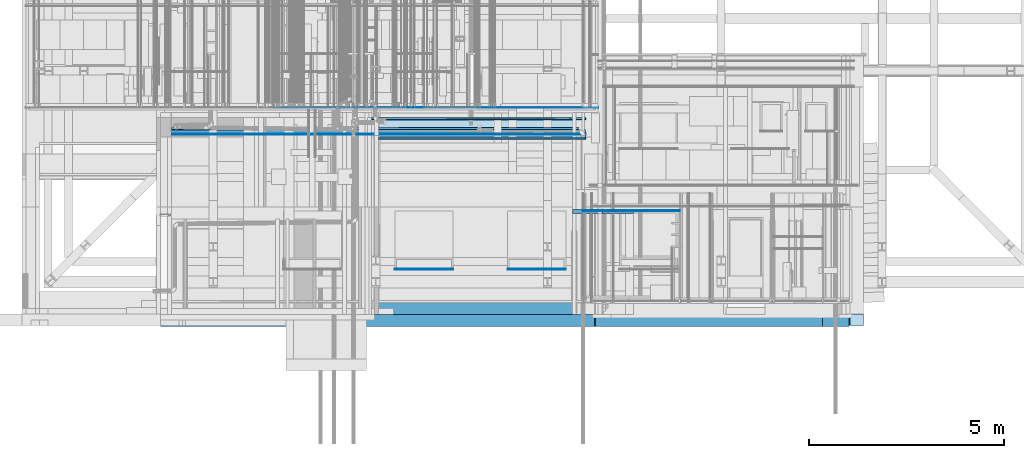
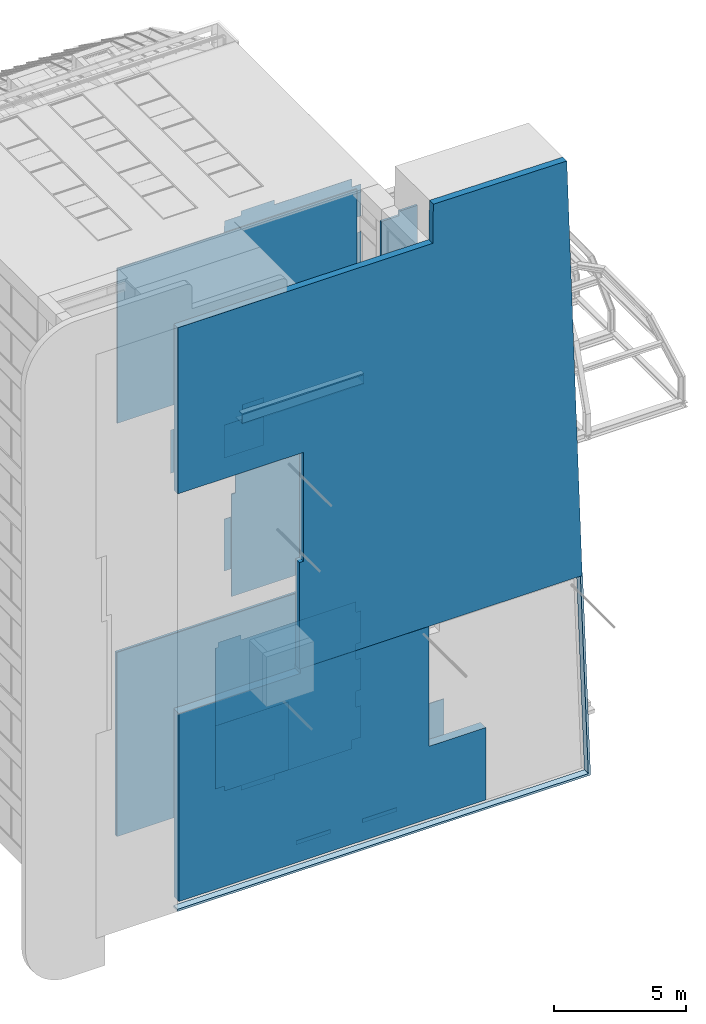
# One storey, part 245 of 583: 22 slabs.
"""IFC2X3 building model written with IfcOpenShell, lengths in metres."""

from ifc_helpers import new_model, entity, si_unit, converted_unit, derived_unit, money_unit, direction, frame, origin_with_axes, place, context, subcontext, project, spatial, faceted_brep, material, type_object, element, save


model = new_model("IFC2X3")

# Units and contexts
model_context = context("Model", 3, precision=1e-05, world=origin_with_axes(), true_north=direction((0.0, 1.0)))
body_context = subcontext(model_context, "Body", "Model", "MODEL_VIEW", scale=1.0)
ifc_project = project(units=[si_unit("LENGTHUNIT", "METRE"), si_unit("AREAUNIT", "SQUARE_METRE"), si_unit("VOLUMEUNIT", "CUBIC_METRE"), si_unit("ABSORBEDDOSEUNIT", "GRAY"), si_unit("AMOUNTOFSUBSTANCEUNIT", "MOLE"), si_unit("DOSEEQUIVALENTUNIT", "SIEVERT"), si_unit("ELECTRICCAPACITANCEUNIT", "FARAD"), si_unit("ELECTRICCHARGEUNIT", "COULOMB"), si_unit("ELECTRICCONDUCTANCEUNIT", "SIEMENS"), si_unit("ELECTRICCURRENTUNIT", "AMPERE"), si_unit("ELECTRICRESISTANCEUNIT", "OHM"), si_unit("ELECTRICVOLTAGEUNIT", "VOLT"), si_unit("ENERGYUNIT", "JOULE"), si_unit("FORCEUNIT", "NEWTON"), si_unit("FREQUENCYUNIT", "HERTZ"), si_unit("ILLUMINANCEUNIT", "LUX"), si_unit("INDUCTANCEUNIT", "HENRY"), si_unit("LUMINOUSFLUXUNIT", "LUMEN"), si_unit("LUMINOUSINTENSITYUNIT", "CANDELA"), si_unit("MAGNETICFLUXDENSITYUNIT", "TESLA"), si_unit("MAGNETICFLUXUNIT", "WEBER"), si_unit("MASSUNIT", "GRAM"), converted_unit("PLANEANGLEUNIT", "degree", entity("IfcReal", 0.0174532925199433), si_unit("PLANEANGLEUNIT", "RADIAN"), dimensions=[0, 0, 0, 0, 0, 0, 0]), si_unit("POWERUNIT", "WATT"), si_unit("PRESSUREUNIT", "PASCAL"), si_unit("RADIOACTIVITYUNIT", "BECQUEREL"), si_unit("SOLIDANGLEUNIT", "STERADIAN"), si_unit("THERMODYNAMICTEMPERATUREUNIT", "KELVIN"), si_unit("TIMEUNIT", "SECOND"), derived_unit("ACCELERATIONUNIT", [(si_unit("LENGTHUNIT", "METRE"), 1), (si_unit("TIMEUNIT", "SECOND"), -2)]), derived_unit("ANGULARVELOCITYUNIT", [(converted_unit("PLANEANGLEUNIT", "degree", entity("IfcReal", 0.0174532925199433), si_unit("PLANEANGLEUNIT", "RADIAN"), dimensions=[0, 0, 0, 0, 0, 0, 0]), 1), (si_unit("TIMEUNIT", "SECOND"), -1)]), derived_unit("CURVATUREUNIT", [(converted_unit("PLANEANGLEUNIT", "degree", entity("IfcReal", 0.0174532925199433), si_unit("PLANEANGLEUNIT", "RADIAN"), dimensions=[0, 0, 0, 0, 0, 0, 0]), 1), (si_unit("LENGTHUNIT", "METRE"), -1)]), derived_unit("DYNAMICVISCOSITYUNIT", [(si_unit("PRESSUREUNIT", "PASCAL"), 1), (si_unit("TIMEUNIT", "SECOND"), 1)]), derived_unit("HEATFLUXDENSITYUNIT", [(si_unit("POWERUNIT", "WATT"), 1), (si_unit("LENGTHUNIT", "METRE"), -2)]), derived_unit("HEATINGVALUEUNIT", [(si_unit("ENERGYUNIT", "JOULE"), 1), (si_unit("MASSUNIT", "GRAM"), -1)]), derived_unit("INTEGERCOUNTRATEUNIT", [(si_unit("TIMEUNIT", "SECOND"), -1)]), derived_unit("IONCONCENTRATIONUNIT", [(si_unit("MASSUNIT", "GRAM"), 1), (si_unit("VOLUMEUNIT", "CUBIC_METRE"), -1)]), derived_unit("ISOTHERMALMOISTURECAPACITYUNIT", [(si_unit("VOLUMEUNIT", "CUBIC_METRE"), 1), (si_unit("MASSUNIT", "GRAM"), -1)]), derived_unit("KINEMATICVISCOSITYUNIT", [(si_unit("AREAUNIT", "SQUARE_METRE"), 1), (si_unit("TIMEUNIT", "SECOND"), -1)]), derived_unit("LINEARFORCEUNIT", [(si_unit("FORCEUNIT", "NEWTON"), 1), (si_unit("LENGTHUNIT", "METRE"), -1)]), derived_unit("LINEARMOMENTUNIT", [(si_unit("FORCEUNIT", "NEWTON"), 1), (si_unit("LENGTHUNIT", "METRE"), -1)]), derived_unit("LINEARSTIFFNESSUNIT", [(si_unit("FORCEUNIT", "NEWTON"), 1), (si_unit("LENGTHUNIT", "METRE"), -1)]), derived_unit("LINEARVELOCITYUNIT", [(si_unit("LENGTHUNIT", "METRE"), 1), (si_unit("TIMEUNIT", "SECOND"), -1)]), derived_unit("LUMINOUSINTENSITYDISTRIBUTIONUNIT", [(si_unit("LUMINOUSINTENSITYUNIT", "CANDELA"), 1), (si_unit("LUMINOUSFLUXUNIT", "LUMEN"), -1)]), derived_unit("MASSDENSITYUNIT", [(si_unit("MASSUNIT", "GRAM"), 1), (si_unit("VOLUMEUNIT", "CUBIC_METRE"), -1)]), derived_unit("MASSFLOWRATEUNIT", [(si_unit("MASSUNIT", "GRAM"), 1), (si_unit("TIMEUNIT", "SECOND"), -1)]), derived_unit("MASSPERLENGTHUNIT", [(si_unit("MASSUNIT", "GRAM"), 1), (si_unit("LENGTHUNIT", "METRE"), -1)]), derived_unit("MODULUSOFELASTICITYUNIT", [(si_unit("FORCEUNIT", "NEWTON"), 1), (si_unit("AREAUNIT", "SQUARE_METRE"), -1)]), derived_unit("MODULUSOFLINEARSUBGRADEREACTIONUNIT", [(si_unit("FORCEUNIT", "NEWTON"), 1), (si_unit("LENGTHUNIT", "METRE"), -2)]), derived_unit("MODULUSOFROTATIONALSUBGRADEREACTIONUNIT", [(si_unit("FORCEUNIT", "NEWTON"), 1), (si_unit("LENGTHUNIT", "METRE"), 1)]), derived_unit("MODULUSOFSUBGRADEREACTIONUNIT", [(si_unit("FORCEUNIT", "NEWTON"), 1), (si_unit("VOLUMEUNIT", "CUBIC_METRE"), -1)]), derived_unit("MOISTUREDIFFUSIVITYUNIT", [(si_unit("VOLUMEUNIT", "CUBIC_METRE"), 1), (si_unit("TIMEUNIT", "SECOND"), -1)]), derived_unit("MOLECULARWEIGHTUNIT", [(si_unit("MASSUNIT", "GRAM"), 1), (si_unit("AMOUNTOFSUBSTANCEUNIT", "MOLE"), -1)]), derived_unit("PLANARFORCEUNIT", [(si_unit("FORCEUNIT", "NEWTON"), 1), (si_unit("LENGTHUNIT", "METRE"), -2)]), derived_unit("ROTATIONALFREQUENCYUNIT", [(si_unit("TIMEUNIT", "SECOND"), -1)]), derived_unit("ROTATIONALMASSUNIT", [(si_unit("MASSUNIT", "GRAM"), 1), (si_unit("LENGTHUNIT", "METRE"), 2)]), derived_unit("ROTATIONALSTIFFNESSUNIT", [(si_unit("FORCEUNIT", "NEWTON"), 1), (si_unit("LENGTHUNIT", "METRE"), 1), (converted_unit("PLANEANGLEUNIT", "degree", entity("IfcReal", 0.0174532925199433), si_unit("PLANEANGLEUNIT", "RADIAN"), dimensions=[0, 0, 0, 0, 0, 0, 0]), -1)]), derived_unit("SECTIONAREAINTEGRALUNIT", [(si_unit("LENGTHUNIT", "METRE"), 5)]), derived_unit("SECTIONMODULUSUNIT", [(si_unit("LENGTHUNIT", "METRE"), 3)]), derived_unit("SHEARMODULUSUNIT", [(si_unit("FORCEUNIT", "NEWTON"), 1), (si_unit("AREAUNIT", "SQUARE_METRE"), -1)]), derived_unit("SOUNDPOWERUNIT", [(si_unit("ENERGYUNIT", "JOULE"), 1), (si_unit("TIMEUNIT", "SECOND"), -1)]), derived_unit("SPECIFICHEATCAPACITYUNIT", [(si_unit("FORCEUNIT", "NEWTON"), 1), (si_unit("MASSUNIT", "GRAM"), -1), (si_unit("THERMODYNAMICTEMPERATUREUNIT", "KELVIN"), -1)]), derived_unit("TEMPERATUREGRADIENTUNIT", [(si_unit("THERMODYNAMICTEMPERATUREUNIT", "KELVIN"), 1), (si_unit("LENGTHUNIT", "METRE"), -1)]), derived_unit("THERMALADMITTANCEUNIT", [(si_unit("POWERUNIT", "WATT"), 1), (si_unit("AREAUNIT", "SQUARE_METRE"), -1), (si_unit("THERMODYNAMICTEMPERATUREUNIT", "KELVIN"), -1)]), derived_unit("THERMALCONDUCTANCEUNIT", [(si_unit("POWERUNIT", "WATT"), 1), (si_unit("LENGTHUNIT", "METRE"), -1), (si_unit("THERMODYNAMICTEMPERATUREUNIT", "KELVIN"), -1)]), derived_unit("THERMALEXPANSIONCOEFFICIENTUNIT", [(si_unit("THERMODYNAMICTEMPERATUREUNIT", "KELVIN"), -1)]), derived_unit("THERMALRESISTANCEUNIT", [(si_unit("AREAUNIT", "SQUARE_METRE"), 1), (si_unit("POWERUNIT", "WATT"), -1)]), derived_unit("THERMALTRANSMITTANCEUNIT", [(si_unit("POWERUNIT", "WATT"), 1), (si_unit("AREAUNIT", "SQUARE_METRE"), -1), (si_unit("THERMODYNAMICTEMPERATUREUNIT", "KELVIN"), -1)]), derived_unit("TORQUEUNIT", [(si_unit("FORCEUNIT", "NEWTON"), 1), (si_unit("LENGTHUNIT", "METRE"), 1)]), derived_unit("VAPORPERMEABILITYUNIT", [(si_unit("MASSUNIT", "GRAM"), 1), (si_unit("TIMEUNIT", "SECOND"), -1)]), derived_unit("VOLUMETRICFLOWRATEUNIT", [(si_unit("VOLUMEUNIT", "CUBIC_METRE"), 1), (si_unit("TIMEUNIT", "SECOND"), -1)]), derived_unit("WARPINGCONSTANTUNIT", [(si_unit("LENGTHUNIT", "METRE"), 6)]), derived_unit("WARPINGMOMENTUNIT", [(si_unit("FORCEUNIT", "NEWTON"), 1), (si_unit("LENGTHUNIT", "METRE"), 2)]), money_unit("GBP")], contexts=[model_context])

# Site, building, storey
site_placement = place(None, origin_with_axes())
site = spatial("IfcSite", under=ifc_project, at=site_placement, Name="Site", CompositionType="ELEMENT")
building_placement = place(site_placement, origin_with_axes())
building = spatial("IfcBuilding", under=site, at=building_placement, Name="Building01", CompositionType="ELEMENT")
storey_placement = place(building_placement, frame((0.0, 0.0, 20.78), z_axis=(0.0, 0.0, 1.0), x_axis=(1.0, 0.0, 0.0)))
storey = spatial("IfcBuildingStorey", under=building, at=storey_placement, Name="RL", CompositionType="ELEMENT", Elevation=20.78)

# Slabs
ifc_material_1 = material(Name="A_BSUK_Slabs")
slab_type_1 = type_object("IfcSlabType", Name="A-FloorsSlabs A_BSUK_Slabs", PredefinedType="FLOOR")
placement = place(storey_placement, frame((0.0, 0.0, -20.78), z_axis=(0.0, 0.0, 1.0), x_axis=(1.0, 0.0, 0.0)))
element("IfcSlab", 1, at=placement, inside=storey, type_object=slab_type_1, material=ifc_material_1, Name="A-FloorsSlabs A_BSUK_Slabs", ObjectType="CompoundSlabLeaf", context=body_context, shape_type="Brep", body=[
    faceted_brep([(14.897172, 2.44, 22.371797), (14.897172, 2.54, 22.371797), (15.695023, 2.54, 22.371797), (15.695023, 2.44, 22.371797), (14.897172, 2.44, 22.571797), (14.897172, 2.54, 22.571797), (14.134296, 2.44, 22.577154), (14.134296, 2.54, 22.577154), (14.134126, 2.44, 26.429722), (14.134126, 2.54, 26.429722), (14.906552, 2.44, 26.429767), (14.906552, 2.54, 26.429767), (14.909522, 2.44, 26.629767), (14.909522, 2.54, 26.629767), (15.705087, 2.44, 26.629738), (15.705087, 2.54, 26.629738)], [[[0, 1, 2, 3]], [[4, 5, 1, 0]], [[6, 7, 5, 4]], [[8, 9, 7, 6]], [[10, 11, 9, 8]], [[12, 13, 11, 10]], [[14, 15, 13, 12]], [[3, 2, 15, 14]], [[1, 5, 7, 9, 11, 13, 15, 2]], [[3, 14, 12, 10, 8, 6, 4, 0]]]),
])
element("IfcSlab", 2, at=placement, inside=storey, type_object=slab_type_1, material=ifc_material_1, Name="A-FloorsSlabs A_BSUK_Slabs", ObjectType="CompoundSlabLeaf", context=body_context, shape_type="Brep", body=[
    faceted_brep([(8.87141, -0.46, 9.343127), (8.87141, -0.16, 9.343127), (21.237229, -0.16, 9.343127), (21.237229, -0.46, 9.343127), (8.87141, -0.46, 14.27235), (8.87141, -0.16, 14.27235), (9.053145, -0.46, 14.27235), (9.053145, -0.16, 14.27235), (9.053145, -0.46, 19.302772), (9.053145, -0.16, 19.302772), (3.559165, -0.46, 19.302772), (3.559165, -0.16, 19.302772), (3.559165, -0.46, 26.98149), (3.559165, -0.16, 26.98149), (6.112111, -0.46, 26.98149), (6.112111, -0.16, 26.98149), (6.511753, -0.46, 26.98149), (6.511753, -0.16, 26.98149), (8.237758, -0.46, 26.98149), (8.237758, -0.16, 26.98149), (8.909531, -0.46, 26.98149), (8.909531, -0.16, 26.98149), (14.134296, -0.46, 26.98149), (14.134296, -0.16, 26.98149), (14.134296, -0.46, 26.981639), (14.134296, -0.16, 26.981639), (14.702806, -0.46, 26.981707), (14.702806, -0.16, 26.981707), (14.728819, -0.46, 28.782327), (14.728819, -0.16, 28.782327), (20.563839, -0.46, 28.739658), (20.563839, -0.16, 28.739658)], [[[0, 1, 2, 3]], [[4, 5, 1, 0]], [[6, 7, 5, 4]], [[8, 9, 7, 6]], [[10, 11, 9, 8]], [[12, 13, 11, 10]], [[14, 15, 13, 12]], [[16, 17, 15, 14]], [[18, 19, 17, 16]], [[20, 21, 19, 18]], [[22, 23, 21, 20]], [[24, 25, 23, 22]], [[26, 27, 25, 24]], [[28, 29, 27, 26]], [[30, 31, 29, 28]], [[3, 2, 31, 30]], [[1, 5, 7, 9, 11, 13, 15, 17, 19, 21, 23, 25, 27, 29, 31, 2]], [[3, 30, 28, 26, 24, 22, 20, 18, 16, 14, 12, 10, 8, 6, 4, 0]]]),
])
element("IfcSlab", 3, at=placement, inside=storey, type_object=slab_type_1, material=ifc_material_1, Name="A-FloorsSlabs A_BSUK_Slabs", ObjectType="CompoundSlabLeaf", context=body_context, shape_type="Brep", body=[
    faceted_brep([(21.237229, -0.445, 9.343265), (21.237229, -0.145, 9.343265), (21.166058, -0.145, 9.343265), (21.166058, -0.445, 9.343265), (21.237229, -0.445, 9.343127), (21.237229, -0.145, 9.343127), (21.262408, -0.445, 9.4435), (21.262408, -0.145, 9.4435), (21.61325, -0.445, -0.013684), (21.61325, -0.145, -0.013684), (18.020229, -0.445, -0.013684), (18.020229, -0.145, -0.013684), (18.020229, -0.445, 0.000677), (18.020229, -0.145, 0.000677), (3.559142, -0.445, -0.000238), (3.559142, -0.145, -0.000238), (3.559332, -0.445, 0.10035), (3.559332, -0.145, 0.10035), (21.509487, -0.445, 0.085897), (21.509487, -0.145, 0.085897)], [[[0, 1, 2, 3]], [[4, 5, 1, 0]], [[6, 7, 5, 4]], [[8, 9, 7, 6]], [[10, 11, 9, 8]], [[12, 13, 11, 10]], [[14, 15, 13, 12]], [[16, 17, 15, 14]], [[18, 19, 17, 16]], [[3, 2, 19, 18]], [[1, 5, 7, 9, 11, 13, 15, 17, 19, 2]], [[3, 18, 16, 14, 12, 10, 8, 6, 4, 0]]]),
])
element("IfcSlab", 4, at=placement, inside=storey, type_object=slab_type_1, material=ifc_material_1, Name="A-FloorsSlabs A_BSUK_Slabs", ObjectType="CompoundSlabLeaf", context=body_context, shape_type="Brep", body=[
    faceted_brep([(3.733332, -0.252, 0.280357), (3.733332, 0.148, 0.280357), (17.143647, 0.148, 0.280357), (17.143647, -0.252, 0.280357), (3.733332, -0.252, 8.965501), (3.733332, 0.148, 8.965501), (9.035141, -0.252, 8.965501), (9.035141, 0.148, 8.965501), (9.035141, -0.252, 9.173127), (9.035141, 0.148, 9.173127), (14.65, -0.252, 9.173127), (14.65, 0.148, 9.173127), (14.65, -0.252, 3.630525), (14.65, 0.148, 3.630525), (17.143647, -0.252, 3.630525), (17.143647, 0.148, 3.630525)], [[[0, 1, 2, 3]], [[4, 5, 1, 0]], [[6, 7, 5, 4]], [[8, 9, 7, 6]], [[10, 11, 9, 8]], [[12, 13, 11, 10]], [[14, 15, 13, 12]], [[3, 2, 15, 14]], [[1, 5, 7, 9, 11, 13, 15, 2]], [[3, 14, 12, 10, 8, 6, 4, 0]]]),
])
element("IfcSlab", 5, at=placement, inside=storey, type_object=slab_type_1, material=ifc_material_1, Name="A-FloorsSlabs A_BSUK_Slabs", ObjectType="CompoundSlabLeaf", context=body_context, shape_type="Brep", body=[
    faceted_brep([(14.477504, 4.46, 0.42), (14.477504, 4.475, 0.42), (14.48, 4.475, 8.925), (14.48, 4.46, 8.925), (3.734123, 4.46, 0.42), (3.734123, 4.475, 0.42), (3.733962, 4.46, 8.925), (3.733962, 4.475, 8.925), (9.049365, 4.46, 8.925127), (9.049365, 4.475, 8.925127), (9.049365, 4.46, 8.925), (9.049365, 4.475, 8.925)], [[[0, 1, 2, 3]], [[4, 5, 1, 0]], [[6, 7, 5, 4]], [[8, 9, 7, 6]], [[10, 11, 9, 8]], [[3, 2, 11, 10]], [[1, 5, 7, 9, 11, 2]], [[3, 10, 8, 6, 4, 0]]]),
])
element("IfcSlab", 6, at=placement, inside=storey, type_object=slab_type_1, material=ifc_material_1, Name="A-FloorsSlabs A_BSUK_Slabs", ObjectType="CompoundSlabLeaf", context=body_context, shape_type="Brep", body=[
    faceted_brep([(14.48, 4.475, 0.42), (14.48, 4.49, 0.42), (14.48, 4.49, 8.925), (14.48, 4.475, 8.925), (3.734123, 4.475, 0.42), (3.734123, 4.49, 0.42), (3.733962, 4.475, 8.925), (3.733962, 4.49, 8.925), (9.049365, 4.475, 8.925127), (9.049365, 4.49, 8.925127), (9.049365, 4.475, 8.925), (9.049365, 4.49, 8.925)], [[[0, 1, 2, 3]], [[4, 5, 1, 0]], [[6, 7, 5, 4]], [[8, 9, 7, 6]], [[10, 11, 9, 8]], [[3, 2, 11, 10]], [[1, 5, 7, 9, 11, 2]], [[3, 10, 8, 6, 4, 0]]]),
])
element("IfcSlab", 7, at=placement, inside=storey, type_object=slab_type_1, material=ifc_material_1, Name="A-FloorsSlabs A_BSUK_Slabs", ObjectType="CompoundSlabLeaf", context=body_context, shape_type="Brep", body=[
    faceted_brep([(16.893628, 2.495, 3.380525), (16.893628, 2.51, 3.380525), (14.4, 2.51, 3.380525), (14.4, 2.495, 3.380525), (16.893647, 2.495, 0.280851), (16.893647, 2.51, 0.280851), (14.4, 2.495, 0.280357), (14.4, 2.51, 0.280357)], [[[0, 1, 2, 3]], [[4, 5, 1, 0]], [[6, 7, 5, 4]], [[3, 2, 7, 6]], [[1, 5, 7, 2]], [[3, 6, 4, 0]]]),
])
element("IfcSlab", 8, at=placement, inside=storey, type_object=slab_type_1, material=ifc_material_1, Name="A-FloorsSlabs A_BSUK_Slabs", ObjectType="CompoundSlabLeaf", context=body_context, shape_type="Brep", body=[
    faceted_brep([(16.893628, 2.51, 3.380525), (16.893628, 2.525, 3.380525), (14.4, 2.525, 3.380525), (14.4, 2.51, 3.380525), (16.893647, 2.51, 0.280851), (16.893647, 2.525, 0.280851), (14.4, 2.51, 0.280757), (14.4, 2.525, 0.280757)], [[[0, 1, 2, 3]], [[4, 5, 1, 0]], [[6, 7, 5, 4]], [[3, 2, 7, 6]], [[1, 5, 7, 2]], [[3, 6, 4, 0]]]),
])
ifc_material_2 = material(Name="A_BSUK_Timber_Miscellaneous")
element("IfcSlab", 9, at=placement, inside=storey, type_object=slab_type_1, material=ifc_material_2, Name="A-FloorsSlabs A_BSUK_Slabs", ObjectType="CompoundSlabLeaf", context=body_context, shape_type="Brep", body=[
    faceted_brep([(13.971016, 0.998, 0.100088), (13.971016, 1.023, 0.100088), (13.971016, 1.023, 0.287079), (13.971016, 0.998, 0.287079), (12.471016, 0.998, 0.100088), (12.471016, 1.023, 0.100088), (12.471016, 0.998, 0.287079), (12.471016, 1.023, 0.287079)], [[[0, 1, 2, 3]], [[4, 5, 1, 0]], [[6, 7, 5, 4]], [[3, 2, 7, 6]], [[1, 5, 7, 2]], [[3, 6, 4, 0]]]),
])
element("IfcSlab", 10, at=placement, inside=storey, type_object=slab_type_1, material=ifc_material_2, Name="A-FloorsSlabs A_BSUK_Slabs", ObjectType="CompoundSlabLeaf", context=body_context, shape_type="Brep", body=[
    faceted_brep([(11.077491, 0.998, 0.100088), (11.077491, 1.023, 0.100088), (11.077491, 1.023, 0.287079), (11.077491, 0.998, 0.287079), (9.577491, 0.998, 0.100088), (9.577491, 1.023, 0.100088), (9.577491, 0.998, 0.287079), (9.577491, 1.023, 0.287079)], [[[0, 1, 2, 3]], [[4, 5, 1, 0]], [[6, 7, 5, 4]], [[3, 2, 7, 6]], [[1, 5, 7, 2]], [[3, 6, 4, 0]]]),
])
ifc_material_3 = material(Name="A_BSUK_ExpandedPolystyreneBoards")
element("IfcSlab", 11, at=placement, inside=storey, type_object=slab_type_1, material=ifc_material_3, Name="A-FloorsSlabs A_BSUK_Slabs", ObjectType="CompoundSlabLeaf", context=body_context, shape_type="Brep", body=[
    faceted_brep([(14.299834, 4.590745, 18.08494), (14.299834, 4.640745, 18.08494), (14.299999, 4.640745, 26.562239), (14.299999, 4.590745, 26.562239), (9.153143, 4.590745, 18.083237), (9.153143, 4.640745, 18.083237), (9.153044, 4.590745, 19.402975), (9.153044, 4.640745, 19.402975), (3.833852, 4.590745, 19.402776), (3.833852, 4.640745, 19.402776), (3.833852, 4.590745, 26.562239), (3.833852, 4.640745, 26.562239)], [[[0, 1, 2, 3]], [[4, 5, 1, 0]], [[6, 7, 5, 4]], [[8, 9, 7, 6]], [[10, 11, 9, 8]], [[3, 2, 11, 10]], [[1, 5, 7, 9, 11, 2]], [[3, 10, 8, 6, 4, 0]]]),
])
element("IfcSlab", 12, at=placement, inside=storey, type_object=slab_type_1, material=ifc_material_3, Name="A-FloorsSlabs A_BSUK_Slabs", ObjectType="CompoundSlabLeaf", context=body_context, shape_type="Brep", body=[
    faceted_brep([(14.48, 4.35, 17.685), (14.48, 4.4, 17.685), (14.48, 4.4, 18.085), (14.48, 4.35, 18.085), (9.153143, 4.35, 17.685), (9.153143, 4.4, 17.685), (9.153143, 4.35, 18.085), (9.153143, 4.4, 18.085)], [[[0, 1, 2, 3]], [[4, 5, 1, 0]], [[6, 7, 5, 4]], [[3, 2, 7, 6]], [[1, 5, 7, 2]], [[3, 6, 4, 0]]]),
])
element("IfcSlab", 13, at=placement, inside=storey, type_object=slab_type_1, material=ifc_material_3, Name="A-FloorsSlabs A_BSUK_Slabs", ObjectType="CompoundSlabLeaf", context=body_context, shape_type="Brep", body=[
    faceted_brep([(8.973018, 4.85, 9.443038), (8.973018, 4.9, 9.443038), (14.48, 4.9, 9.443038), (14.48, 4.85, 9.443038), (8.972665, 4.85, 14.17234), (8.972665, 4.9, 14.17234), (9.147854, 4.85, 14.172354), (9.147854, 4.9, 14.172354), (9.147591, 4.85, 17.684602), (9.147591, 4.9, 17.684602), (14.48, 4.85, 17.685), (14.48, 4.9, 17.685)], [[[0, 1, 2, 3]], [[4, 5, 1, 0]], [[6, 7, 5, 4]], [[8, 9, 7, 6]], [[10, 11, 9, 8]], [[3, 2, 11, 10]], [[1, 5, 7, 9, 11, 2]], [[3, 10, 8, 6, 4, 0]]]),
])
element("IfcSlab", 14, at=placement, inside=storey, type_object=slab_type_1, material=ifc_material_3, Name="A-FloorsSlabs A_BSUK_Slabs", ObjectType="CompoundSlabLeaf", context=body_context, shape_type="Brep", body=[
    faceted_brep([(14.48, 4.35, 18.13494), (14.48, 4.35, 18.08494), (14.48, 4.590745, 18.08494), (14.48, 4.590745, 18.13494), (9.153143, 4.35, 18.13494), (9.153143, 4.35, 18.08494), (9.153143, 4.590745, 18.13494), (9.153143, 4.590745, 18.08494)], [[[0, 1, 2, 3]], [[4, 5, 1, 0]], [[6, 7, 5, 4]], [[3, 2, 7, 6]], [[1, 5, 7, 2]], [[3, 6, 4, 0]]]),
])
element("IfcSlab", 15, at=placement, inside=storey, type_object=slab_type_1, material=ifc_material_3, Name="A-FloorsSlabs A_BSUK_Slabs", ObjectType="CompoundSlabLeaf", context=body_context, shape_type="Brep", body=[
    faceted_brep([(14.48, 4.35, 17.685), (14.48, 4.35, 17.635), (14.48, 4.85, 17.635), (14.48, 4.85, 17.685), (9.153143, 4.35, 17.685), (9.153143, 4.35, 17.635), (9.153143, 4.85, 17.685), (9.153143, 4.85, 17.635)], [[[0, 1, 2, 3]], [[4, 5, 1, 0]], [[6, 7, 5, 4]], [[3, 2, 7, 6]], [[1, 5, 7, 2]], [[3, 6, 4, 0]]]),
])
element("IfcSlab", 16, at=placement, inside=storey, type_object=slab_type_1, material=ifc_material_3, Name="A-FloorsSlabs A_BSUK_Slabs", ObjectType="CompoundSlabLeaf", context=body_context, shape_type="Brep", body=[
    faceted_brep([(14.402, 5.15, 0.725), (14.402, 5.153, 0.725), (14.8, 5.153, 0.725), (14.8, 5.15, 0.725), (14.402, 5.15, 0.318), (14.402, 5.153, 0.318), (11.055, 5.15, 0.318), (11.055, 5.153, 0.318), (11.055, 5.15, 0.1), (11.055, 5.153, 0.1), (9.56218, 5.15, 0.1), (9.56218, 5.153, 0.1), (9.56218, 5.15, 0.318), (9.56218, 5.153, 0.318), (8.848, 5.15, 0.318), (8.848, 5.153, 0.318), (8.848, 5.15, 0.548), (8.848, 5.153, 0.548), (8.43567, 5.15, 0.548), (8.43567, 5.153, 0.548), (8.43567, 5.15, 7.064669), (8.43567, 5.153, 7.064669), (8.550704, 5.15, 7.064669), (8.550704, 5.153, 7.064669), (8.550704, 5.15, 7.289669), (8.550704, 5.153, 7.289669), (9.550704, 5.15, 7.289669), (9.550704, 5.153, 7.289669), (9.550704, 5.15, 7.064669), (9.550704, 5.153, 7.064669), (14.582, 5.15, 7.064669), (14.582, 5.153, 7.064669), (14.582, 5.15, 6.574876), (14.582, 5.153, 6.574876), (14.8, 5.15, 6.574876), (14.8, 5.153, 6.574876), (14.8, 5.15, 5.105), (14.8, 5.153, 5.105), (14.582, 5.15, 5.105), (14.582, 5.153, 5.105), (14.582, 5.15, 4.385), (14.582, 5.153, 4.385), (14.8, 5.15, 4.385), (14.8, 5.153, 4.385), (14.8, 5.15, 2.915), (14.8, 5.153, 2.915), (14.582, 5.15, 2.915), (14.582, 5.153, 2.915), (14.582, 5.15, 2.195), (14.582, 5.153, 2.195), (14.8, 5.15, 2.195), (14.8, 5.153, 2.195)], [[[0, 1, 2, 3]], [[4, 5, 1, 0]], [[6, 7, 5, 4]], [[8, 9, 7, 6]], [[10, 11, 9, 8]], [[12, 13, 11, 10]], [[14, 15, 13, 12]], [[16, 17, 15, 14]], [[18, 19, 17, 16]], [[20, 21, 19, 18]], [[22, 23, 21, 20]], [[24, 25, 23, 22]], [[26, 27, 25, 24]], [[28, 29, 27, 26]], [[30, 31, 29, 28]], [[32, 33, 31, 30]], [[34, 35, 33, 32]], [[36, 37, 35, 34]], [[38, 39, 37, 36]], [[40, 41, 39, 38]], [[42, 43, 41, 40]], [[44, 45, 43, 42]], [[46, 47, 45, 44]], [[48, 49, 47, 46]], [[50, 51, 49, 48]], [[3, 2, 51, 50]], [[1, 5, 7, 9, 11, 13, 15, 17, 19, 21, 23, 25, 27, 29, 31, 33, 35, 37, 39, 41, 43, 45, 47, 49, 51, 2]], [[3, 50, 48, 46, 44, 42, 40, 38, 36, 34, 32, 30, 28, 26, 24, 22, 20, 18, 16, 14, 12, 10, 8, 6, 4, 0]]]),
])
element("IfcSlab", 17, at=placement, inside=storey, type_object=slab_type_1, material=ifc_material_3, Name="A-FloorsSlabs A_BSUK_Slabs", ObjectType="CompoundSlabLeaf", context=body_context, shape_type="Brep", body=[
    faceted_brep([(8.82, 5.15, 15.83), (8.82, 5.153, 15.83), (8.82, 5.153, 15.708132), (8.82, 5.15, 15.708132), (8.65, 5.15, 15.83), (8.65, 5.153, 15.83), (6.475, 5.15, 15.83), (6.475, 5.153, 15.83), (6.475, 5.15, 17.83), (6.475, 5.153, 17.83), (6.93, 5.15, 17.83), (6.93, 5.153, 17.83), (6.93, 5.15, 18.0), (6.93, 5.153, 18.0), (6.93, 5.15, 18.392), (6.93, 5.153, 18.392), (6.69, 5.15, 18.392), (6.69, 5.153, 18.392), (6.69, 5.15, 19.392), (6.69, 5.153, 19.392), (6.93, 5.15, 19.392), (6.93, 5.153, 19.392), (6.93, 5.15, 19.897661), (6.93, 5.153, 19.897661), (8.82, 5.15, 19.897661), (8.82, 5.153, 19.897661), (8.82, 5.15, 26.432), (8.82, 5.153, 26.432), (8.848, 5.15, 26.432), (8.848, 5.153, 26.432), (8.848, 5.15, 26.662), (8.848, 5.153, 26.662), (9.56218, 5.15, 26.662), (9.56218, 5.153, 26.662), (9.56218, 5.15, 26.88), (9.56218, 5.153, 26.88), (11.03218, 5.15, 26.88), (11.03218, 5.153, 26.88), (11.03218, 5.15, 26.662), (11.03218, 5.153, 26.662), (14.402, 5.15, 26.662), (14.402, 5.153, 26.662), (14.402, 5.15, 26.285), (14.402, 5.153, 26.285), (14.8, 5.15, 26.285), (14.8, 5.153, 26.285), (14.8, 5.15, 24.815), (14.8, 5.153, 24.815), (14.582, 5.15, 24.815), (14.582, 5.153, 24.815), (14.582, 5.15, 24.095), (14.582, 5.153, 24.095), (14.8, 5.15, 24.095), (14.8, 5.153, 24.095), (14.8, 5.15, 22.625), (14.8, 5.153, 22.625), (14.582, 5.15, 22.625), (14.582, 5.153, 22.625), (14.582, 5.15, 21.905), (14.582, 5.153, 21.905), (14.8, 5.15, 21.905), (14.8, 5.153, 21.905), (14.8, 5.15, 20.435), (14.8, 5.153, 20.435), (14.582, 5.15, 20.435), (14.582, 5.153, 20.435), (14.582, 5.15, 19.715), (14.582, 5.153, 19.715), (14.8, 5.15, 19.715), (14.8, 5.153, 19.715), (14.8, 5.15, 18.268), (14.8, 5.153, 18.268), (14.402, 5.15, 18.268), (14.402, 5.153, 18.268), (14.402, 5.15, 17.502), (14.402, 5.153, 17.502), (14.8, 5.15, 17.502), (14.8, 5.153, 17.502), (14.8, 5.15, 16.055), (14.8, 5.153, 16.055), (14.582, 5.15, 16.055), (14.582, 5.153, 16.055), (14.582, 5.15, 15.708132), (14.582, 5.153, 15.708132)], [[[0, 1, 2, 3]], [[4, 5, 1, 0]], [[6, 7, 5, 4]], [[8, 9, 7, 6]], [[10, 11, 9, 8]], [[12, 13, 11, 10]], [[14, 15, 13, 12]], [[16, 17, 15, 14]], [[18, 19, 17, 16]], [[20, 21, 19, 18]], [[22, 23, 21, 20]], [[24, 25, 23, 22]], [[26, 27, 25, 24]], [[28, 29, 27, 26]], [[30, 31, 29, 28]], [[32, 33, 31, 30]], [[34, 35, 33, 32]], [[36, 37, 35, 34]], [[38, 39, 37, 36]], [[40, 41, 39, 38]], [[42, 43, 41, 40]], [[44, 45, 43, 42]], [[46, 47, 45, 44]], [[48, 49, 47, 46]], [[50, 51, 49, 48]], [[52, 53, 51, 50]], [[54, 55, 53, 52]], [[56, 57, 55, 54]], [[58, 59, 57, 56]], [[60, 61, 59, 58]], [[62, 63, 61, 60]], [[64, 65, 63, 62]], [[66, 67, 65, 64]], [[68, 69, 67, 66]], [[70, 71, 69, 68]], [[72, 73, 71, 70]], [[74, 75, 73, 72]], [[76, 77, 75, 74]], [[78, 79, 77, 76]], [[80, 81, 79, 78]], [[82, 83, 81, 80]], [[3, 2, 83, 82]], [[1, 5, 7, 9, 11, 13, 15, 17, 19, 21, 23, 25, 27, 29, 31, 33, 35, 37, 39, 41, 43, 45, 47, 49, 51, 53, 55, 57, 59, 61, 63, 65, 67, 69, 71, 73, 75, 77, 79, 81, 83, 2]], [[3, 82, 80, 78, 76, 74, 72, 70, 68, 66, 64, 62, 60, 58, 56, 54, 52, 50, 48, 46, 44, 42, 40, 38, 36, 34, 32, 30, 28, 26, 24, 22, 20, 18, 16, 14, 12, 10, 8, 6, 4, 0]]]),
])
ifc_material_4 = material(Name="A_BSUK_Carpet-Pile")
element("IfcSlab", 18, at=placement, inside=storey, type_object=slab_type_1, material=ifc_material_4, Name="A-FloorsSlabs A_BSUK_Slabs", ObjectType="CompoundSlabLeaf", context=body_context, shape_type="Brep", body=[
    faceted_brep([(11.63067, 5.153, 0.318), (11.63067, 5.165, 0.318), (11.63067, 5.165, 3.474669), (11.63067, 5.153, 3.474669), (11.055, 5.153, 0.318), (11.055, 5.165, 0.318), (9.56218, 5.153, 0.318), (9.56218, 5.165, 0.318), (8.848, 5.153, 0.318), (8.848, 5.165, 0.318), (8.848, 5.153, 0.548), (8.848, 5.165, 0.548), (8.43567, 5.153, 0.548), (8.43567, 5.165, 0.548), (8.43567, 5.153, 3.474669), (8.43567, 5.165, 3.474669)], [[[0, 1, 2, 3]], [[4, 5, 1, 0]], [[6, 7, 5, 4]], [[8, 9, 7, 6]], [[10, 11, 9, 8]], [[12, 13, 11, 10]], [[14, 15, 13, 12]], [[3, 2, 15, 14]], [[1, 5, 7, 9, 11, 13, 15, 2]], [[3, 14, 12, 10, 8, 6, 4, 0]]]),
])
ifc_material_5 = material(Name="A_BSUK_Ceramic_FloorTiles")
element("IfcSlab", 19, at=placement, inside=storey, type_object=slab_type_1, material=ifc_material_5, Name="A-FloorsSlabs A_BSUK_Slabs", ObjectType="CompoundSlabLeaf", context=body_context, shape_type="Brep", body=[
    faceted_brep([(10.32, 5.153, 10.488871), (10.32, 5.165, 10.488871), (10.32, 5.165, 12.893585), (10.32, 5.153, 12.893585), (8.82, 5.153, 10.488871), (8.82, 5.165, 10.488871), (8.82, 5.153, 12.893585), (8.82, 5.165, 12.893585)], [[[0, 1, 2, 3]], [[4, 5, 1, 0]], [[6, 7, 5, 4]], [[3, 2, 7, 6]], [[1, 5, 7, 2]], [[3, 6, 4, 0]]]),
])
ifc_material_6 = material(Name="A_BSUK_Parquet_Floor")
element("IfcSlab", 20, at=placement, inside=storey, type_object=slab_type_1, material=ifc_material_6, Name="A-FloorsSlabs A_BSUK_Slabs", ObjectType="CompoundSlabLeaf", context=body_context, shape_type="Brep", body=[
    faceted_brep([(6.69, 5.153, 18.392), (6.69, 5.165, 18.392), (6.93, 5.165, 18.392), (6.93, 5.153, 18.392), (6.69, 5.153, 19.392), (6.69, 5.165, 19.392), (6.93, 5.153, 19.392), (6.93, 5.165, 19.392), (6.93, 5.153, 19.897661), (6.93, 5.165, 19.897661), (8.82, 5.153, 19.897661), (8.82, 5.165, 19.897661), (8.82, 5.153, 26.432), (8.82, 5.165, 26.432), (8.848, 5.153, 26.432), (8.848, 5.165, 26.432), (8.848, 5.153, 26.662), (8.848, 5.165, 26.662), (9.56218, 5.153, 26.662), (9.56218, 5.165, 26.662), (11.03218, 5.153, 26.662), (11.03218, 5.165, 26.662), (14.402, 5.153, 26.662), (14.402, 5.165, 26.662), (14.402, 5.153, 26.285), (14.402, 5.165, 26.285), (14.8, 5.153, 26.285), (14.8, 5.165, 26.285), (14.8, 5.153, 24.815), (14.8, 5.165, 24.815), (14.582, 5.153, 24.815), (14.582, 5.165, 24.815), (14.582, 5.153, 24.095), (14.582, 5.165, 24.095), (14.8, 5.153, 24.095), (14.8, 5.165, 24.095), (14.8, 5.153, 22.625), (14.8, 5.165, 22.625), (10.57, 5.153, 22.625), (10.57, 5.165, 22.625), (10.57, 5.153, 20.902284), (10.57, 5.165, 20.902284), (10.665, 5.153, 20.902284), (10.665, 5.165, 20.902284), (10.665, 5.153, 19.918284), (10.665, 5.165, 19.918284), (10.57, 5.153, 19.918284), (10.57, 5.165, 19.918284), (10.57, 5.153, 19.017398), (10.57, 5.165, 19.017398), (10.665, 5.153, 19.017398), (10.665, 5.165, 19.017398), (10.665, 5.153, 18.033398), (10.665, 5.165, 18.033398), (10.57, 5.153, 18.033398), (10.57, 5.165, 18.033398), (10.57, 5.153, 18.0), (10.57, 5.165, 18.0), (9.967396, 5.153, 18.0), (9.967396, 5.165, 18.0), (9.525, 5.153, 18.0), (9.525, 5.165, 18.0), (9.525, 5.153, 17.333132), (9.525, 5.165, 17.333132), (8.82, 5.153, 17.333132), (8.82, 5.165, 17.333132), (8.82, 5.153, 17.905), (8.82, 5.165, 17.905), (8.82, 5.153, 18.0), (8.82, 5.165, 18.0), (7.82088, 5.153, 18.0), (7.82088, 5.165, 18.0), (7.82088, 5.153, 17.83), (7.82088, 5.165, 17.83), (7.02888, 5.153, 17.83), (7.02888, 5.165, 17.83), (7.02888, 5.153, 18.0), (7.02888, 5.165, 18.0), (6.93, 5.153, 18.0), (6.93, 5.165, 18.0)], [[[0, 1, 2, 3]], [[4, 5, 1, 0]], [[6, 7, 5, 4]], [[8, 9, 7, 6]], [[10, 11, 9, 8]], [[12, 13, 11, 10]], [[14, 15, 13, 12]], [[16, 17, 15, 14]], [[18, 19, 17, 16]], [[20, 21, 19, 18]], [[22, 23, 21, 20]], [[24, 25, 23, 22]], [[26, 27, 25, 24]], [[28, 29, 27, 26]], [[30, 31, 29, 28]], [[32, 33, 31, 30]], [[34, 35, 33, 32]], [[36, 37, 35, 34]], [[38, 39, 37, 36]], [[40, 41, 39, 38]], [[42, 43, 41, 40]], [[44, 45, 43, 42]], [[46, 47, 45, 44]], [[48, 49, 47, 46]], [[50, 51, 49, 48]], [[52, 53, 51, 50]], [[54, 55, 53, 52]], [[56, 57, 55, 54]], [[58, 59, 57, 56]], [[60, 61, 59, 58]], [[62, 63, 61, 60]], [[64, 65, 63, 62]], [[66, 67, 65, 64]], [[68, 69, 67, 66]], [[70, 71, 69, 68]], [[72, 73, 71, 70]], [[74, 75, 73, 72]], [[76, 77, 75, 74]], [[78, 79, 77, 76]], [[3, 2, 79, 78]], [[1, 5, 7, 9, 11, 13, 15, 17, 19, 21, 23, 25, 27, 29, 31, 33, 35, 37, 39, 41, 43, 45, 47, 49, 51, 53, 55, 57, 59, 61, 63, 65, 67, 69, 71, 73, 75, 77, 79, 2]], [[3, 78, 76, 74, 72, 70, 68, 66, 64, 62, 60, 58, 56, 54, 52, 50, 48, 46, 44, 42, 40, 38, 36, 34, 32, 30, 28, 26, 24, 22, 20, 18, 16, 14, 12, 10, 8, 6, 4, 0]]]),
])
element("IfcSlab", 21, at=placement, inside=storey, type_object=slab_type_1, material=ifc_material_5, Name="A-FloorsSlabs A_BSUK_Slabs", ObjectType="CompoundSlabLeaf", context=body_context, shape_type="Brep", body=[
    faceted_brep([(8.82, 5.153, 15.708132), (8.82, 5.165, 15.708132), (10.57, 5.165, 15.708132), (10.57, 5.153, 15.708132), (8.82, 5.153, 17.238132), (8.82, 5.165, 17.238132), (9.62, 5.153, 17.238132), (9.62, 5.165, 17.238132), (9.62, 5.153, 17.905), (9.62, 5.165, 17.905), (10.57, 5.153, 17.905), (10.57, 5.165, 17.905)], [[[0, 1, 2, 3]], [[4, 5, 1, 0]], [[6, 7, 5, 4]], [[8, 9, 7, 6]], [[10, 11, 9, 8]], [[3, 2, 11, 10]], [[1, 5, 7, 9, 11, 2]], [[3, 10, 8, 6, 4, 0]]]),
])
slab_type_2 = type_object("IfcSlabType", Name="A-FloorsSlabs A_BSUK_ExpandedPolystyreneBoards", PredefinedType="FLOOR")
element("IfcSlab", 22, at=placement, inside=storey, type_object=slab_type_2, material=ifc_material_3, Name="A-FloorsSlabs A_BSUK_ExpandedPolystyreneBoards", ObjectType="CompoundSlabLeaf", context=body_context, shape_type="Brep", body=[
    faceted_brep([(14.48, 4.49, 0.42), (14.48, 4.59, 0.42), (14.48, 4.59, 8.925), (14.48, 4.49, 8.925), (3.734123, 4.49, 0.42), (3.734123, 4.59, 0.42), (3.733962, 4.49, 8.925), (3.733962, 4.59, 8.925), (9.049365, 4.49, 8.925127), (9.049365, 4.59, 8.925127), (9.049365, 4.49, 8.925), (9.049365, 4.59, 8.925)], [[[0, 1, 2, 3]], [[4, 5, 1, 0]], [[6, 7, 5, 4]], [[8, 9, 7, 6]], [[10, 11, 9, 8]], [[3, 2, 11, 10]], [[1, 5, 7, 9, 11, 2]], [[3, 10, 8, 6, 4, 0]]]),
])

save(model, "model.ifc")
